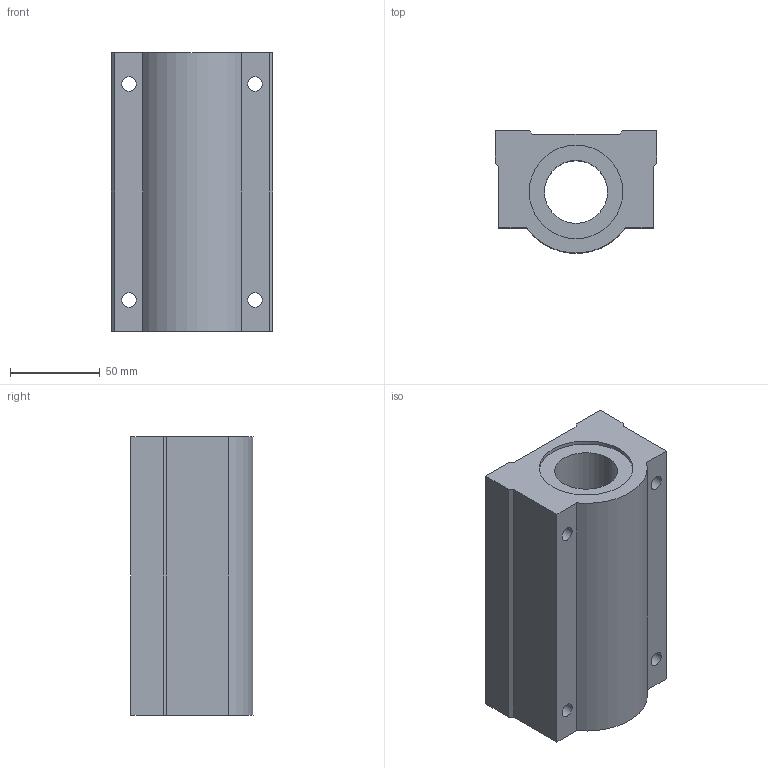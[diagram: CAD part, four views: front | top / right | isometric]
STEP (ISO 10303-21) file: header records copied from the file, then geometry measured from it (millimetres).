
FILE_DESCRIPTION((''),'2;1');
FILE_NAME('C:\Documents and Settings\ｿﾀﾀ蠑ｷ1\ｹﾙﾅﾁ ﾈｭｸ饅\ｺﾎﾇｰﾆﾄﾀﾏ\ﾁｦﾇｰ\SC__WUUN\SC35WUUN.stp','2005-06-22T15:22:56',('ｿﾀﾀ蠑ｷ1'),(''),'Autodesk Inventor 9','Autodesk Inventor 9','');
FILE_SCHEMA(('AUTOMOTIVE_DESIGN { 1 0 10303 214 1 1 1 1 }'));
Length unit declared in the file: millimetre
Products named in the file (1): SC__UUN
Bounding box: 90 x 67.88 x 155 mm (x, y, z)
Volume: 635007.4 mm3; surface area: 76614.1 mm2
Topology: 1 solids, 1 shells, 32 faces, 84 edges, 56 vertices
Faces by surface type: plane 17, bspline 8, cylinder 7
Entity records: 1145 total; most frequent: CARTESIAN_POINT 309, ORIENTED_EDGE 168, DIRECTION 164, EDGE_CURVE 84, VERTEX_POINT 56, AXIS2_PLACEMENT_3D 55, VECTOR 54, LINE 54
